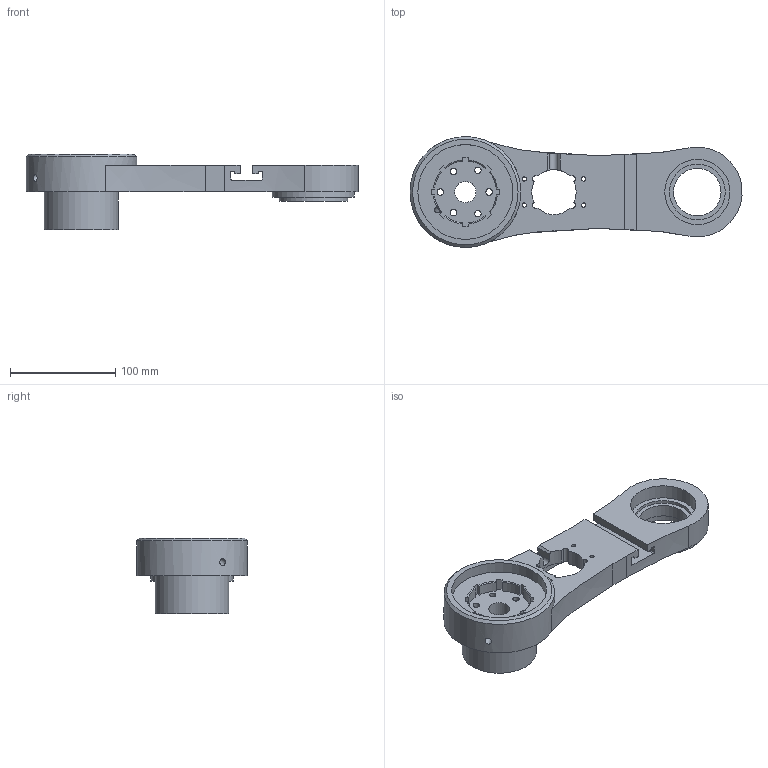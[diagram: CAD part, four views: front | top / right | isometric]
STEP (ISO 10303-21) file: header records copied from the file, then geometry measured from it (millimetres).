
FILE_DESCRIPTION(/* description */ (''),/* implementation_level */ '2;1');
FILE_NAME(/* name */ 'Shoulder Arm.step',/* time_stamp */ '2026-06-03T23:46:06+01:00',/* author */ (''),/* organization */ (''),/* preprocessor_version */ 'ST-DEVELOPER v20.1',/* originating_system */ 'Autodesk Translation Framework v15.8.0.0',/* authorisation */ '');
FILE_SCHEMA (('AUTOMOTIVE_DESIGN { 1 0 10303 214 3 1 1 }'));
Length unit declared in the file: millimetre
Products named in the file (2): Shoulder Arm; thrust bearing placeholder v2
Assembly tree (1 placements, depth 2):
  Shoulder Arm
    thrust bearing placeholder v2
Bounding box: 314.85 x 105 x 71.6 mm (x, y, z)
Volume: 585906.1 mm3; surface area: 108098.9 mm2
Topology: 2 solids, 2 shells, 148 faces, 397 edges, 262 vertices
Faces by surface type: plane 78, cylinder 53, cone 10, bspline 7
Full cylindrical faces by diameter (mm): 4 x7, 6.2 x7, 20 x1, 45 x2, 53 x1, 61.9 x1, 65 x2, 70.15 x1, 78 x1, 90 x1, 105 x1
Entity records: 6212 total; most frequent: CARTESIAN_POINT 2520, ORIENTED_EDGE 794, DIRECTION 690, EDGE_CURVE 397, VERTEX_POINT 262, AXIS2_PLACEMENT_3D 241, LINE 208, VECTOR 208
